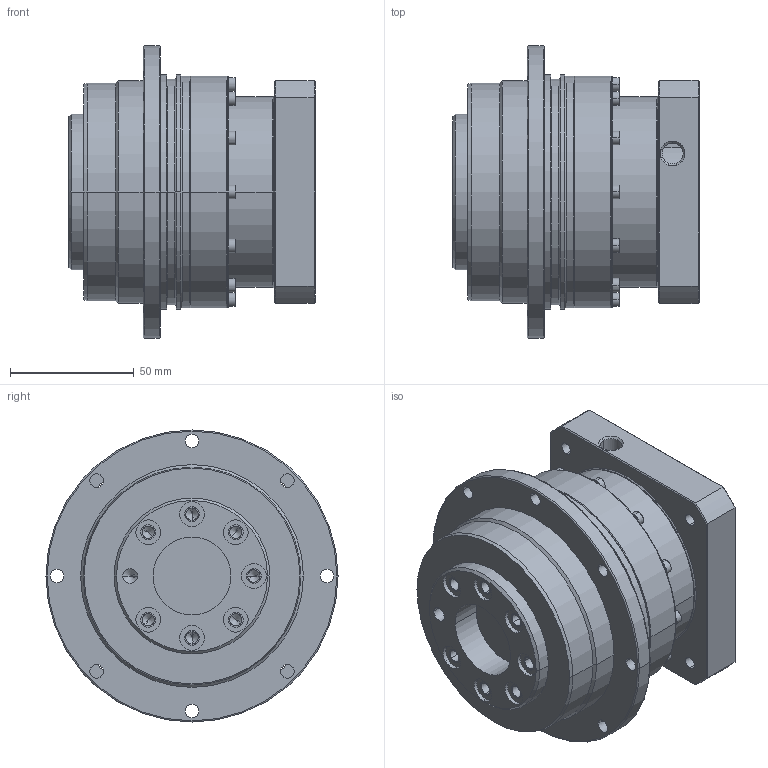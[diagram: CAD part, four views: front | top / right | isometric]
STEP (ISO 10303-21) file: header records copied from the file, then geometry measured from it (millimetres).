
FILE_DESCRIPTION((''),'2;1');
FILE_NAME('AD0901-P4130303_ASM','2007-05-15T',('D00204'),(''),'PRO/ENGINEER BY PARAMETRIC TECHNOLOGY CORPORATION, 2006170','PRO/ENGINEER BY PARAMETRIC TECHNOLOGY CORPORATION, 2006170','');
FILE_SCHEMA(('CONFIG_CONTROL_DESIGN'));
Length unit declared in the file: millimetre
Products named in the file (7): AD090-1; PK030001; 233100001; 220110416; COVER_SET1-AD-3_ASM; P4130303; AD0901-P4130303_ASM
Assembly tree (28 placements, depth 3):
  AD0901-P4130303_ASM
    AD090-1
    COVER_SET1-AD-3_ASM
      PK030001
      233100001  x12
      220110416  x12
    P4130303
Bounding box: 99.5 x 118 x 118 mm (x, y, z)
Volume: 578150.8 mm3; surface area: 105235.1 mm2
Topology: 28 solids, 58 shells, 942 faces, 2095 edges, 1262 vertices
Faces by surface type: cylinder 413, plane 297, cone 182, torus 50
Entity records: 15533 total; most frequent: DIRECTION 3049, CARTESIAN_POINT 2677, ORIENTED_EDGE 2250, AXIS2_PLACEMENT_3D 1299, EDGE_CURVE 1185, VERTEX_POINT 756, CIRCLE 709, EDGE_LOOP 677
